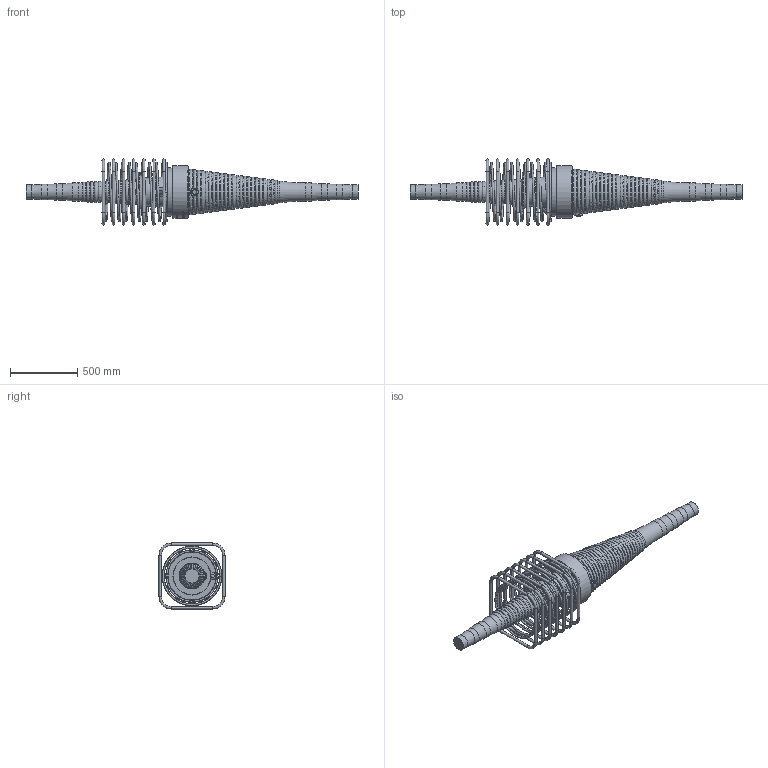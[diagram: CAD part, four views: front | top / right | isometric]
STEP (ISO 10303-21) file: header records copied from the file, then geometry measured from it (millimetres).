
FILE_DESCRIPTION(/* description */ (''),/* implementation_level */ '2;1');
FILE_NAME(/* name */ 'BBR VT CONA CMI BT 2706_Couler K Assembly_CS-34,28.stp',/* time_stamp */ '2025-05-22T14:48:33+02:00',/* author */ ('tk'),/* organization */ (''),/* preprocessor_version */ 'ST-DEVELOPER v20',/* originating_system */ 'Autodesk Inventor 2024',/* authorisation */ '');
FILE_SCHEMA (('AUTOMOTIVE_DESIGN { 1 0 10303 214 3 1 1 }'));
Products named in the file (1): BBR VT CONA CMI BT 2706_Couler K Assembly_CS-34,28
Bounding box: 2463.22 x 490 x 490 mm (x, y, z)
Volume: 88843818.7 mm3; surface area: 3144833.2 mm2
Topology: 9 solids, 9 shells, 1011 faces, 2610 edges, 1668 vertices
Faces by surface type: bspline 364, plane 306, torus 170, cylinder 120, cone 41, sphere 10
Full cylindrical faces by diameter (mm): 20 x28, 34 x1, 34.089 x1, 57 x1, 57.089 x1, 104 x2, 114 x2, 124 x2, 134 x2, 208 x1, 279 x1, 283 x1, 360 x1, 375 x1, 386 x1, 390 x1
Entity records: 45223 total; most frequent: CARTESIAN_POINT 21886, ORIENTED_EDGE 5208, DIRECTION 4068, EDGE_CURVE 2604, VERTEX_POINT 1668, AXIS2_PLACEMENT_3D 1557, EDGE_LOOP 1084, FACE_OUTER_BOUND 1011
